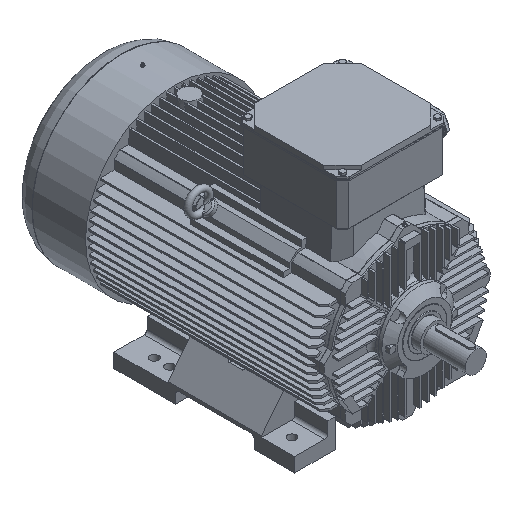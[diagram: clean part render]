
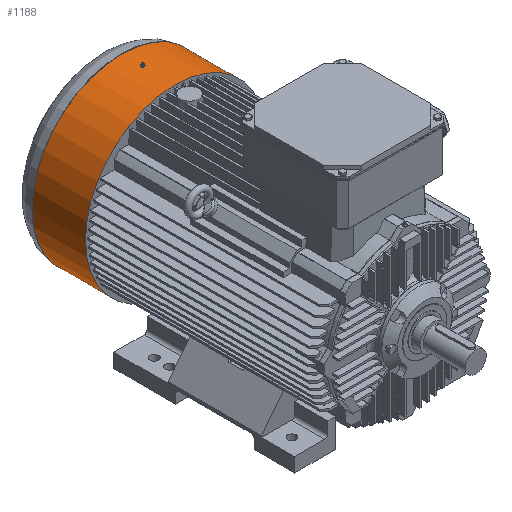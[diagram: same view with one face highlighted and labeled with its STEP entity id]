
A CAD part, isometric view. The second image highlights one B-rep face of the part: STEP entity #1188.
In plain terms, the highlighted cylindrical face has radius 298 mm (diameter 596 mm), a full revolution.
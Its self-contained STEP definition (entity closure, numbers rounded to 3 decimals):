
#1188 = ADVANCED_FACE( '', ( #3523, #3524 ), #3525, .T. );
#3523 = FACE_OUTER_BOUND( '', #10554, .T. );
#3524 = FACE_OUTER_BOUND( '', #10555, .T. );
#3525 = CYLINDRICAL_SURFACE( '', #10556, 298. );
#10554 = EDGE_LOOP( '', ( #19373 ) );
#10555 = EDGE_LOOP( '', ( #19374 ) );
#10556 = AXIS2_PLACEMENT_3D( '', #19375, #19376, #19377 );
#19373 = ORIENTED_EDGE( '', *, *, #26305, .F. );
#19374 = ORIENTED_EDGE( '', *, *, #26116, .F. );
#19375 = CARTESIAN_POINT( '', ( 0., 752.12, 0. ) );
#19376 = DIRECTION( '', ( 0., 1., 0. ) );
#19377 = DIRECTION( '', ( 0., 0., 1. ) );
#26116 = EDGE_CURVE( '', #32348, #32348, #32349, .T. );
#26305 = EDGE_CURVE( '', #32678, #32678, #32679, .F. );
#32348 = VERTEX_POINT( '', #45777 );
#32349 = CIRCLE( '', #45778, 298. );
#32678 = VERTEX_POINT( '', #46248 );
#32679 = CIRCLE( '', #46249, 298. );
#45777 = CARTESIAN_POINT( '', ( 0., 752.12, 298. ) );
#45778 = AXIS2_PLACEMENT_3D( '', #52584, #52585, #52586 );
#46248 = CARTESIAN_POINT( '', ( 298., 930., 0. ) );
#46249 = AXIS2_PLACEMENT_3D( '', #52869, #52870, #52871 );
#52584 = CARTESIAN_POINT( '', ( 0., 752.12, 0. ) );
#52585 = DIRECTION( '', ( 0., -1., 0. ) );
#52586 = DIRECTION( '', ( 0., 0., 1. ) );
#52869 = CARTESIAN_POINT( '', ( 0., 930., 0. ) );
#52870 = DIRECTION( '', ( 0., -1., 0. ) );
#52871 = DIRECTION( '', ( 1., 0., 0. ) );
